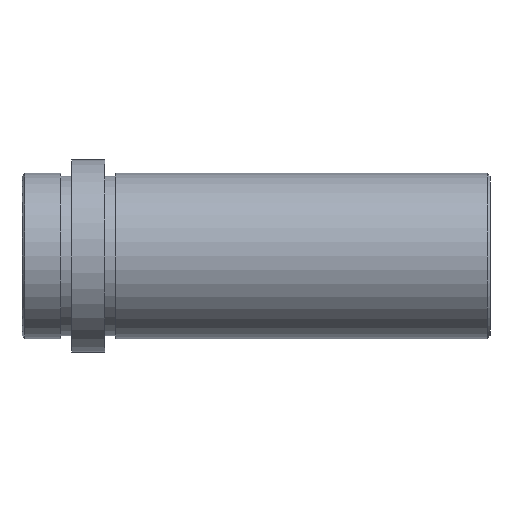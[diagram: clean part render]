
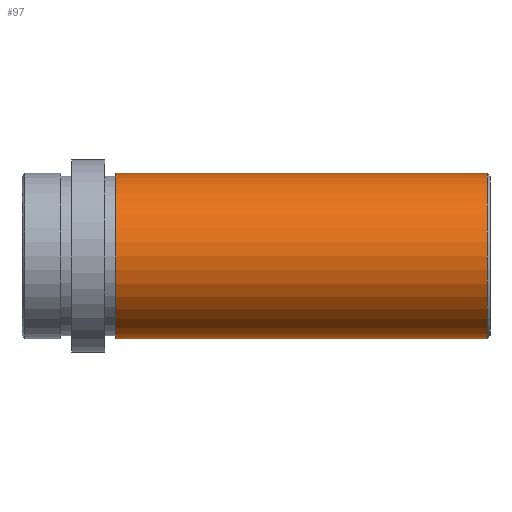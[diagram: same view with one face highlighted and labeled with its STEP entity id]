
A CAD part, front view. The second image highlights one B-rep face of the part: STEP entity #97.
In plain terms, the highlighted face is a revolution surface.
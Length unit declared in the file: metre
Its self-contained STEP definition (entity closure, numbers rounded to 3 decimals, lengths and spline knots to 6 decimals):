
#97 = ADVANCED_FACE( '', ( #149 ), #150, .F. );
#149 = FACE_OUTER_BOUND( '', #235, .T. );
#150 = SURFACE_OF_REVOLUTION( '', #236, #237 );
#235 = EDGE_LOOP( '', ( #403, #404, #405, #406 ) );
#236 = B_SPLINE_CURVE_WITH_KNOTS( '', 1, ( #407, #408 ), .UNSPECIFIED., .F., .F., ( 2, 2 ), ( -10000., 10000. ), .UNSPECIFIED. );
#237 = AXIS1_PLACEMENT( '', #409, #410 );
#403 = ORIENTED_EDGE( '', *, *, #482, .T. );
#404 = ORIENTED_EDGE( '', *, *, #485, .T. );
#405 = ORIENTED_EDGE( '', *, *, #489, .F. );
#406 = ORIENTED_EDGE( '', *, *, #483, .T. );
#407 = CARTESIAN_POINT( '', ( 10000.0845, 0., 0.015 ) );
#408 = CARTESIAN_POINT( '', ( -9999.9155, 0., 0.015 ) );
#409 = CARTESIAN_POINT( '', ( 0., 0., 0. ) );
#410 = DIRECTION( '', ( 1., 0., 0. ) );
#482 = EDGE_CURVE( '', #552, #554, #560, .T. );
#483 = EDGE_CURVE( '', #561, #552, #562, .F. );
#485 = EDGE_CURVE( '', #554, #563, #565, .T. );
#489 = EDGE_CURVE( '', #561, #563, #571, .T. );
#552 = VERTEX_POINT( '', #646 );
#554 = VERTEX_POINT( '', #649 );
#560 = CIRCLE( '', #658, 0.015 );
#561 = VERTEX_POINT( '', #659 );
#562 = LINE( '', #660, #661 );
#563 = VERTEX_POINT( '', #662 );
#565 = LINE( '', #664, #665 );
#571 = CIRCLE( '', #673, 0.015 );
#646 = CARTESIAN_POINT( '', ( 0.0845, 0., -0.015 ) );
#649 = CARTESIAN_POINT( '', ( 0.0845, 0., 0.015 ) );
#658 = AXIS2_PLACEMENT_3D( '', #772, #773, #774 );
#659 = CARTESIAN_POINT( '', ( 0.017, 0., -0.015 ) );
#660 = CARTESIAN_POINT( '', ( 0.0845, 0., -0.015 ) );
#661 = VECTOR( '', #775, 1. );
#662 = CARTESIAN_POINT( '', ( 0.017, 0., 0.015 ) );
#664 = CARTESIAN_POINT( '', ( 0.0845, 0., 0.015 ) );
#665 = VECTOR( '', #779, 1. );
#673 = AXIS2_PLACEMENT_3D( '', #785, #786, #787 );
#772 = CARTESIAN_POINT( '', ( 0.0845, 0., 0. ) );
#773 = DIRECTION( '', ( -1., 0., 0. ) );
#774 = DIRECTION( '', ( 0., 0., 1. ) );
#775 = DIRECTION( '', ( -1., 0., 0. ) );
#779 = DIRECTION( '', ( -1., 0., 0. ) );
#785 = CARTESIAN_POINT( '', ( 0.017, 0., 0. ) );
#786 = DIRECTION( '', ( -1., 0., 0. ) );
#787 = DIRECTION( '', ( 0., 0., 1. ) );
